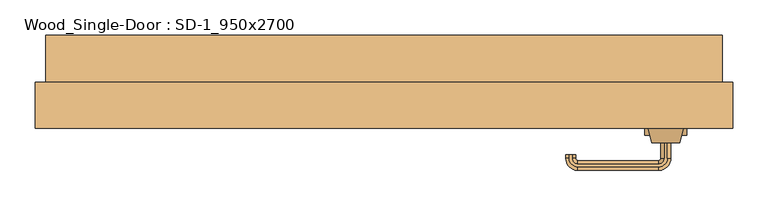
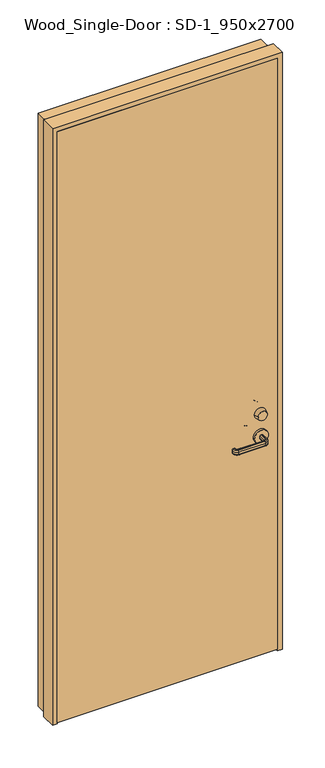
"""IFC4 building model written with IfcOpenShell, lengths in millimetres: door geometry, Wood_Single-Door : SD-1_950x2700."""

from ifc_helpers import new_model, si_unit, point, frame, frame_2d, origin, place, context, project, spatial, polyline, circle_curve, ellipse_curve, trimmed, segment, composite_curve, outline, extrude, source, transform, mapped, element, save
from ifc_brep_helpers import plane_surface, cylinder_surface, revolved_surface, advanced_brep


def wood_single_door_sd_1_950x2700_91983d8e(model_context):
    return source(origin(), model_context, "Body", "SolidModel", [
        advanced_brep(
        [(420.0, -86.0, 1106.3812925), (380.0, -86.0, 1106.3812925), (425.0, -66.0, 1106.3812925), (375.0, -66.0, 1106.3812925)],
        [
            (0, 1, circle_curve(frame((400.0, -86.0, 1106.3812925), z_axis=(0.0, -1.0, 0.0), x_axis=(1.0, 0.0, 0.0)), 20.0)),
            (1, 0, circle_curve(frame((400.0, -86.0, 1106.3812925), z_axis=(0.0, -1.0, 0.0), x_axis=(-1.0, 0.0, 0.0)), 20.0)),
            (2, 3, circle_curve(frame((400.0, -66.0, 1106.3812925), z_axis=(0.0, 1.0, 0.0), x_axis=(-1.0, 0.0, 0.0)), 25.0)),
            (3, 2, circle_curve(frame((400.0, -66.0, 1106.3812925), z_axis=(0.0, 1.0, 0.0), x_axis=(1.0, 0.0, 0.0)), 25.0)),
            (2, 0),
            (1, 3),
        ],
        [
            plane_surface(frame((400.0, -86.0, 1106.3812925), z_axis=(0.0, -1.0, 0.0), x_axis=(0.0, 0.0, 1.0))),
            plane_surface(frame((400.0, -66.0, 1106.3812925), z_axis=(0.0, 1.0, 0.0), x_axis=(0.0, 0.0, 1.0))),
            revolved_surface(polyline([(380.0, -86.0, 1106.3812925), (375.0, -66.0, 1106.3812925)]), (400.0, -166.0, 1106.3812925), (0.0, 1.0, 0.0)),
            revolved_surface(polyline([(420.0, -86.0, 1106.3812925), (425.0, -66.0, 1106.3812925)]), (400.0, -166.0, 1106.3812925), (0.0, 1.0, 0.0)),
        ],
        [
            (0, [[1, 2]]),
            (1, [[3, 4]]),
            (2, [[-3, 5, -2, 6]]),
            (3, [[-4, -6, -1, -5]]),
        ],
    ),
        advanced_brep(
        [(420.0, -1.0, 1106.3812925), (380.0, -1.0, 1106.3812925), (425.0, -21.0, 1106.3812925), (375.0, -21.0, 1106.3812925)],
        [
            (0, 1, circle_curve(frame((400.0, -1.0, 1106.3812925), z_axis=(0.0, 1.0, 0.0), x_axis=(1.0, 0.0, 0.0)), 20.0)),
            (1, 0, circle_curve(frame((400.0, -1.0, 1106.3812925), z_axis=(0.0, 1.0, 0.0), x_axis=(-1.0, 0.0, 0.0)), 20.0)),
            (2, 3, circle_curve(frame((400.0, -21.0, 1106.3812925), z_axis=(0.0, -1.0, 0.0), x_axis=(-1.0, 0.0, 0.0)), 25.0)),
            (3, 2, circle_curve(frame((400.0, -21.0, 1106.3812925), z_axis=(0.0, -1.0, 0.0), x_axis=(1.0, 0.0, 0.0)), 25.0)),
            (3, 1),
            (0, 2),
        ],
        [
            plane_surface(frame((400.0, -1.0, 1106.3812925), z_axis=(0.0, 1.0, 0.0), x_axis=(0.0, 0.0, -1.0))),
            plane_surface(frame((400.0, -21.0, 1106.3812925), z_axis=(0.0, -1.0, 0.0), x_axis=(0.0, 0.0, -1.0))),
            revolved_surface(polyline([(420.0, -1.0, 1106.3812925), (425.0, -21.0, 1106.3812925)]), (400.0, 79.0, 1106.3812925), (0.0, -1.0, 0.0)),
            revolved_surface(polyline([(380.0, -1.0, 1106.3812925), (375.0, -21.0, 1106.3812925)]), (400.0, 79.0, 1106.3812925), (0.0, -1.0, 0.0)),
        ],
        [
            (0, [[1, 2]]),
            (1, [[3, 4]]),
            (2, [[-4, 5, -1, 6]]),
            (3, [[-3, -6, -2, -5]]),
        ],
    ),
        advanced_brep(
        [(402.0, -76.0, 1015.0), (407.0, -76.0, 1010.0), (407.0, -76.0, 1000.0477623), (402.0, -76.0, 995.0477623), (398.0, -76.0, 995.0477623), (393.0, -76.0, 1000.0477623), (393.0, -76.0, 1010.0), (398.0, -76.0, 1015.0), (402.0, -108.5, 1015.0), (407.0, -108.5, 1010.0), (407.0, -108.5, 1000.0477623), (402.0, -108.5, 995.0477623), (390.0, -120.5, 995.0477623), (275.0, -120.5, 995.0477623), (263.0, -108.5, 995.0477623), (263.0, -103.5, 995.0477623), (267.0, -103.5, 995.0477623), (267.0, -108.5, 995.0477623), (275.0, -116.5, 995.0477623), (390.0, -116.5, 995.0477623), (398.0, -108.5, 995.0477623), (393.0, -108.5, 1000.0477623), (393.0, -108.5, 1010.0), (398.0, -108.5, 1015.0), (390.0, -116.5, 1015.0), (275.0, -116.5, 1015.0), (267.0, -108.5, 1015.0), (267.0, -103.5, 1015.0), (263.0, -103.5, 1015.0), (263.0, -108.5, 1015.0), (275.0, -120.5, 1015.0), (390.0, -120.5, 1015.0), (390.0, -125.5, 1010.0), (390.0, -125.5, 1000.0477623), (390.0, -111.5, 1000.0477623), (390.0, -111.5, 1010.0), (275.0, -125.5, 1010.0), (275.0, -125.5, 1000.0477623), (275.0, -111.5, 1000.0477623), (275.0, -111.5, 1010.0), (258.0, -108.5, 1010.0), (258.0, -108.5, 1000.0477623), (272.0, -108.5, 1000.0477623), (272.0, -108.5, 1010.0), (272.0, -103.5, 1010.0), (272.0, -103.5, 1000.0477623), (258.0, -103.5, 1000.0477623), (258.0, -103.5, 1010.0)],
        [
            (0, 1, circle_curve(frame((402.0, -76.0, 1010.0), z_axis=(0.0, 1.0, 0.0), x_axis=(1.0, 0.0, 0.0)), 5.0)),
            (1, 2),
            (2, 3, circle_curve(frame((402.0, -76.0, 1000.0477623), z_axis=(0.0, 1.0, 0.0), x_axis=(1.0, 0.0, 0.0)), 5.0)),
            (3, 4),
            (4, 5, circle_curve(frame((398.0, -76.0, 1000.0477623), z_axis=(0.0, 1.0, 0.0), x_axis=(1.0, 0.0, 0.0)), 5.0)),
            (5, 6),
            (6, 7, circle_curve(frame((398.0, -76.0, 1010.0), z_axis=(0.0, 1.0, 0.0), x_axis=(1.0, 0.0, 0.0)), 5.0)),
            (7, 0),
            (0, 8),
            (8, 9, circle_curve(frame((402.0, -108.5, 1010.0), z_axis=(0.0, 1.0, 0.0), x_axis=(1.0, 0.0, 0.0)), 5.0)),
            (9, 1),
            (9, 10),
            (10, 2),
            (10, 11, circle_curve(frame((402.0, -108.5, 1000.0477623), z_axis=(0.0, 1.0, 0.0), x_axis=(1.0, 0.0, 0.0)), 5.0)),
            (11, 3),
            (11, 12, circle_curve(frame((390.0, -108.5, 995.0477623), z_axis=(0.0, 0.0, -1.0), x_axis=(1.0, 0.0, 0.0)), 12.0)),
            (12, 13),
            (13, 14, circle_curve(frame((275.0, -108.5, 995.0477623), z_axis=(0.0, 0.0, -1.0), x_axis=(0.0, -1.0, 0.0)), 12.0)),
            (14, 15),
            (15, 16),
            (16, 17),
            (17, 18, circle_curve(frame((275.0, -108.5, 995.0477623), z_axis=(0.0, 0.0, 1.0), x_axis=(0.0, -1.0, 0.0)), 8.0)),
            (18, 19),
            (19, 20, circle_curve(frame((390.0, -108.5, 995.0477623), z_axis=(0.0, 0.0, 1.0), x_axis=(1.0, 0.0, 0.0)), 8.0)),
            (20, 4),
            (20, 21, circle_curve(frame((398.0, -108.5, 1000.0477623), z_axis=(0.0, 1.0, 0.0), x_axis=(1.0, 0.0, 0.0)), 5.0)),
            (21, 5),
            (21, 22),
            (22, 6),
            (22, 23, circle_curve(frame((398.0, -108.5, 1010.0), z_axis=(0.0, 1.0, 0.0), x_axis=(1.0, 0.0, 0.0)), 5.0)),
            (23, 7),
            (23, 24, circle_curve(frame((390.0, -108.5, 1015.0), z_axis=(0.0, 0.0, -1.0), x_axis=(1.0, 0.0, 0.0)), 8.0)),
            (24, 25),
            (25, 26, circle_curve(frame((275.0, -108.5, 1015.0), z_axis=(0.0, 0.0, -1.0), x_axis=(0.0, -1.0, 0.0)), 8.0)),
            (26, 27),
            (27, 28),
            (28, 29),
            (29, 30, circle_curve(frame((275.0, -108.5, 1015.0), z_axis=(0.0, 0.0, 1.0), x_axis=(0.0, -1.0, 0.0)), 12.0)),
            (30, 31),
            (31, 8, circle_curve(frame((390.0, -108.5, 1015.0), z_axis=(0.0, 0.0, 1.0), x_axis=(1.0, 0.0, 0.0)), 12.0)),
            (32, 9, circle_curve(frame((390.0, -108.5, 1010.0), z_axis=(0.0, 0.0, 1.0), x_axis=(1.0, 0.0, 0.0)), 17.0)),
            (31, 32, circle_curve(frame((390.0, -120.5, 1010.0), z_axis=(1.0, 0.0, 0.0), x_axis=(0.0, -1.0, 0.0)), 5.0)),
            (33, 10, circle_curve(frame((390.0, -108.5, 1000.0477623), z_axis=(0.0, 0.0, 1.0), x_axis=(1.0, 0.0, 0.0)), 17.0)),
            (32, 33),
            (33, 12, circle_curve(frame((390.0, -120.5, 1000.0477623), z_axis=(1.0, 0.0, 0.0), x_axis=(0.0, -1.0, 0.0)), 5.0)),
            (34, 21, circle_curve(frame((390.0, -108.5, 1000.0477623), z_axis=(0.0, 0.0, 1.0), x_axis=(1.0, 0.0, 0.0)), 3.0)),
            (19, 34, circle_curve(frame((390.0, -116.5, 1000.0477623), z_axis=(1.0, 0.0, 0.0), x_axis=(0.0, -1.0, 0.0)), 5.0)),
            (35, 22, circle_curve(frame((390.0, -108.5, 1010.0), z_axis=(0.0, 0.0, 1.0), x_axis=(1.0, 0.0, 0.0)), 3.0)),
            (34, 35),
            (35, 24, circle_curve(frame((390.0, -116.5, 1010.0), z_axis=(1.0, 0.0, 0.0), x_axis=(0.0, -1.0, 0.0)), 5.0)),
            (30, 36, circle_curve(frame((275.0, -120.5, 1010.0), z_axis=(1.0, 0.0, 0.0), x_axis=(0.0, -1.0, 0.0)), 5.0)),
            (36, 32),
            (36, 37),
            (37, 33),
            (37, 13, circle_curve(frame((275.0, -120.5, 1000.0477623), z_axis=(1.0, 0.0, 0.0), x_axis=(0.0, -1.0, 0.0)), 5.0)),
            (18, 38, circle_curve(frame((275.0, -116.5, 1000.0477623), z_axis=(1.0, 0.0, 0.0), x_axis=(0.0, -1.0, 0.0)), 5.0)),
            (38, 34),
            (38, 39),
            (39, 35),
            (39, 25, circle_curve(frame((275.0, -116.5, 1010.0), z_axis=(1.0, 0.0, 0.0), x_axis=(0.0, -1.0, 0.0)), 5.0)),
            (40, 36, circle_curve(frame((275.0, -108.5, 1010.0), z_axis=(0.0, 0.0, 1.0), x_axis=(0.0, -1.0, 0.0)), 17.0)),
            (29, 40, circle_curve(frame((263.0, -108.5, 1010.0), z_axis=(0.0, -1.0, 0.0), x_axis=(-1.0, 0.0, 0.0)), 5.0)),
            (41, 37, circle_curve(frame((275.0, -108.5, 1000.0477623), z_axis=(0.0, 0.0, 1.0), x_axis=(0.0, -1.0, 0.0)), 17.0)),
            (40, 41),
            (41, 14, circle_curve(frame((263.0, -108.5, 1000.0477623), z_axis=(0.0, -1.0, 0.0), x_axis=(-1.0, 0.0, 0.0)), 5.0)),
            (42, 38, circle_curve(frame((275.0, -108.5, 1000.0477623), z_axis=(0.0, 0.0, 1.0), x_axis=(0.0, -1.0, 0.0)), 3.0)),
            (17, 42, circle_curve(frame((267.0, -108.5, 1000.0477623), z_axis=(0.0, -1.0, 0.0), x_axis=(-1.0, 0.0, 0.0)), 5.0)),
            (43, 39, circle_curve(frame((275.0, -108.5, 1010.0), z_axis=(0.0, 0.0, 1.0), x_axis=(0.0, -1.0, 0.0)), 3.0)),
            (42, 43),
            (43, 26, circle_curve(frame((267.0, -108.5, 1010.0), z_axis=(0.0, -1.0, 0.0), x_axis=(-1.0, 0.0, 0.0)), 5.0)),
            (27, 44, circle_curve(frame((267.0, -103.5, 1010.0), z_axis=(0.0, 1.0, 0.0), x_axis=(-1.0, 0.0, 0.0)), 5.0)),
            (44, 45),
            (45, 16, circle_curve(frame((267.0, -103.5, 1000.0477623), z_axis=(0.0, 1.0, 0.0), x_axis=(-1.0, 0.0, 0.0)), 5.0)),
            (15, 46, circle_curve(frame((263.0, -103.5, 1000.0477623), z_axis=(0.0, 1.0, 0.0), x_axis=(-1.0, 0.0, 0.0)), 5.0)),
            (46, 47),
            (47, 28, circle_curve(frame((263.0, -103.5, 1010.0), z_axis=(0.0, 1.0, 0.0), x_axis=(-1.0, 0.0, 0.0)), 5.0)),
            (47, 40),
            (46, 41),
            (45, 42),
            (44, 43),
        ],
        [
            plane_surface(frame((410.198039, -76.0, 1005.0), z_axis=(0.0, 1.0, 0.0), x_axis=(0.0, 0.0, 1.0))),
            cylinder_surface(frame((402.0, -76.0, 1010.0), z_axis=(0.0, 1.0, 0.0), x_axis=(1.0, 0.0, 0.0)), 5.0),
            plane_surface(frame((407.0, -76.0, 1010.0), z_axis=(1.0, 0.0, 0.0), x_axis=(0.0, -1.0, 0.0))),
            cylinder_surface(frame((402.0, -76.0, 1000.0477623), z_axis=(0.0, 1.0, 0.0), x_axis=(1.0, 0.0, 0.0)), 5.0),
            plane_surface(frame((402.0, -76.0, 995.0477623), z_axis=(0.0, 0.0, -1.0), x_axis=(0.0, -1.0, 0.0))),
            cylinder_surface(frame((398.0, -76.0, 1000.0477623), z_axis=(0.0, 1.0, 0.0), x_axis=(1.0, 0.0, 0.0)), 5.0),
            plane_surface(frame((393.0, -76.0, 1000.0477623), z_axis=(-1.0, 0.0, 0.0), x_axis=(0.0, -1.0, 0.0))),
            cylinder_surface(frame((398.0, -76.0, 1010.0), z_axis=(0.0, 1.0, 0.0), x_axis=(1.0, 0.0, 0.0)), 5.0),
            plane_surface(frame((398.0, -76.0, 1015.0), z_axis=(0.0, 0.0, 1.0), x_axis=(0.0, -1.0, 0.0))),
            revolved_surface(trimmed(ellipse_curve(frame((402.0, -108.5, 1010.0), z_axis=(0.0, 1.0, 0.0), x_axis=(1.0, 0.0, 0.0)), 5.0, 5.0), [point((402.0, -108.5, 1015.0))], [point((407.0, -108.5, 1010.0))], True, "CARTESIAN"), (390.0, -108.5, 1005.0), (0.0, 0.0, -1.0)),
            cylinder_surface(frame((390.0, -108.5, 1005.0), z_axis=(0.0, 0.0, -1.0), x_axis=(1.0, 0.0, 0.0)), 17.0),
            revolved_surface(trimmed(ellipse_curve(frame((402.0, -108.5, 1000.0477623), z_axis=(0.0, 1.0, 0.0), x_axis=(1.0, 0.0, 0.0)), 5.0, 5.0), [point((407.0, -108.5, 1000.0477623))], [point((402.0, -108.5, 995.0477623))], True, "CARTESIAN"), (390.0, -108.5, 1005.0), (0.0, 0.0, -1.0)),
            revolved_surface(trimmed(ellipse_curve(frame((398.0, -108.5, 1000.0477623), z_axis=(0.0, 1.0, 0.0), x_axis=(1.0, 0.0, 0.0)), 5.0, 5.0), [point((398.0, -108.5, 995.0477623))], [point((393.0, -108.5, 1000.0477623))], True, "CARTESIAN"), (390.0, -108.5, 1005.0), (0.0, 0.0, -1.0)),
            revolved_surface(polyline([(393.0, -108.5, 1000.0477623), (393.0, -108.5, 1010.0)]), (390.0, -108.5, 1005.0), (0.0, 0.0, -1.0)),
            revolved_surface(trimmed(ellipse_curve(frame((398.0, -108.5, 1010.0), z_axis=(0.0, 1.0, 0.0), x_axis=(1.0, 0.0, 0.0)), 5.0, 5.0), [point((393.0, -108.5, 1010.0))], [point((398.0, -108.5, 1015.0))], True, "CARTESIAN"), (390.0, -108.5, 1005.0), (0.0, 0.0, -1.0)),
            cylinder_surface(frame((390.0, -120.5, 1010.0), z_axis=(1.0, 0.0, 0.0), x_axis=(0.0, -1.0, 0.0)), 5.0),
            plane_surface(frame((390.0, -125.5, 1010.0), z_axis=(0.0, -1.0, 0.0), x_axis=(-1.0, 0.0, 0.0))),
            cylinder_surface(frame((390.0, -120.5, 1000.0477623), z_axis=(1.0, 0.0, 0.0), x_axis=(0.0, -1.0, 0.0)), 5.0),
            cylinder_surface(frame((390.0, -116.5, 1000.0477623), z_axis=(1.0, 0.0, 0.0), x_axis=(0.0, -1.0, 0.0)), 5.0),
            plane_surface(frame((390.0, -111.5, 1000.0477623), z_axis=(0.0, 1.0, 0.0), x_axis=(-1.0, 0.0, 0.0))),
            cylinder_surface(frame((390.0, -116.5, 1010.0), z_axis=(1.0, 0.0, 0.0), x_axis=(0.0, -1.0, 0.0)), 5.0),
            revolved_surface(trimmed(ellipse_curve(frame((275.0, -120.5, 1010.0), z_axis=(1.0, 0.0, 0.0), x_axis=(0.0, -1.0, 0.0)), 5.0, 5.0), [point((275.0, -120.5, 1015.0))], [point((275.0, -125.5, 1010.0))], True, "CARTESIAN"), (275.0, -108.5, 1005.0), (0.0, 0.0, -1.0)),
            cylinder_surface(frame((275.0, -108.5, 1005.0), z_axis=(0.0, 0.0, -1.0), x_axis=(0.0, -1.0, 0.0)), 17.0),
            revolved_surface(trimmed(ellipse_curve(frame((275.0, -120.5, 1000.0477623), z_axis=(1.0, 0.0, 0.0), x_axis=(0.0, -1.0, 0.0)), 5.0, 5.0), [point((275.0, -125.5, 1000.0477623))], [point((275.0, -120.5, 995.0477623))], True, "CARTESIAN"), (275.0, -108.5, 1005.0), (0.0, 0.0, -1.0)),
            revolved_surface(trimmed(ellipse_curve(frame((275.0, -116.5, 1000.0477623), z_axis=(1.0, 0.0, 0.0), x_axis=(0.0, -1.0, 0.0)), 5.0, 5.0), [point((275.0, -116.5, 995.0477623))], [point((275.0, -111.5, 1000.0477623))], True, "CARTESIAN"), (275.0, -108.5, 1005.0), (0.0, 0.0, -1.0)),
            revolved_surface(polyline([(275.0, -111.5, 1000.0477623), (275.0, -111.5, 1010.0)]), (275.0, -108.5, 1005.0), (0.0, 0.0, -1.0)),
            revolved_surface(trimmed(ellipse_curve(frame((275.0, -116.5, 1010.0), z_axis=(1.0, 0.0, 0.0), x_axis=(0.0, -1.0, 0.0)), 5.0, 5.0), [point((275.0, -111.5, 1010.0))], [point((275.0, -116.5, 1015.0))], True, "CARTESIAN"), (275.0, -108.5, 1005.0), (0.0, 0.0, -1.0)),
            plane_surface(frame((275.198039, -103.5, 1005.0), z_axis=(0.0, 1.0, 0.0), x_axis=(0.0, 0.0, -1.0))),
            cylinder_surface(frame((263.0, -108.5, 1010.0), z_axis=(0.0, -1.0, 0.0), x_axis=(-1.0, 0.0, 0.0)), 5.0),
            plane_surface(frame((258.0, -108.5, 1010.0), z_axis=(-1.0, 0.0, 0.0), x_axis=(0.0, 1.0, 0.0))),
            cylinder_surface(frame((263.0, -108.5, 1000.0477623), z_axis=(0.0, -1.0, 0.0), x_axis=(-1.0, 0.0, 0.0)), 5.0),
            cylinder_surface(frame((267.0, -108.5, 1000.0477623), z_axis=(0.0, -1.0, 0.0), x_axis=(-1.0, 0.0, 0.0)), 5.0),
            plane_surface(frame((272.0, -108.5, 1000.0477623), z_axis=(1.0, 0.0, 0.0), x_axis=(0.0, 1.0, 0.0))),
            cylinder_surface(frame((267.0, -108.5, 1010.0), z_axis=(0.0, -1.0, 0.0), x_axis=(-1.0, 0.0, 0.0)), 5.0),
        ],
        [
            (0, [[1, 2, 3, 4, 5, 6, 7, 8]]),
            (1, [[-1, 9, 10, 11]]),
            (2, [[-2, -11, 12, 13]]),
            (3, [[-3, -13, 14, 15]]),
            (4, [[-4, -15, 16, 17, 18, 19, 20, 21, 22, 23, 24, 25]]),
            (5, [[-5, -25, 26, 27]]),
            (6, [[-6, -27, 28, 29]]),
            (7, [[-7, -29, 30, 31]]),
            (8, [[-8, -31, 32, 33, 34, 35, 36, 37, 38, 39, 40, -9]]),
            (9, [[41, -10, -40, 42]]),
            (10, [[43, -12, -41, 44]]),
            (11, [[-16, -14, -43, 45]]),
            (12, [[46, -26, -24, 47]]),
            (13, [[48, -28, -46, 49]]),
            (14, [[-32, -30, -48, 50]]),
            (15, [[-42, -39, 51, 52]]),
            (16, [[-44, -52, 53, 54]]),
            (17, [[-45, -54, 55, -17]]),
            (18, [[-47, -23, 56, 57]]),
            (19, [[-49, -57, 58, 59]]),
            (20, [[-50, -59, 60, -33]]),
            (21, [[61, -51, -38, 62]]),
            (22, [[63, -53, -61, 64]]),
            (23, [[-18, -55, -63, 65]]),
            (24, [[66, -56, -22, 67]]),
            (25, [[68, -58, -66, 69]]),
            (26, [[-34, -60, -68, 70]]),
            (27, [[-36, 71, 72, 73, -20, 74, 75, 76]]),
            (28, [[-62, -37, -76, 77]]),
            (29, [[-64, -77, -75, 78]]),
            (30, [[-65, -78, -74, -19]]),
            (31, [[-67, -21, -73, 79]]),
            (32, [[-69, -79, -72, 80]]),
            (33, [[-70, -80, -71, -35]]),
        ],
    ),
        advanced_brep(
        [(407.0, -11.0, 1000.0), (402.0, -11.0, 995.0), (402.0, 21.5, 995.0), (407.0, 21.5, 1000.0), (398.0, -11.0, 995.0), (407.0, -11.0, 1010.0), (402.0, -11.0, 1015.0), (398.0, -11.0, 1015.0), (393.0, -11.0, 1010.0), (393.0, -11.0, 1000.0), (398.0, 21.5, 995.0), (390.0, 29.5, 995.0), (275.0, 29.5, 995.0), (267.0, 21.5, 995.0), (267.0, 16.5, 995.0), (263.0, 16.5, 995.0), (263.0, 21.5, 995.0), (275.0, 33.5, 995.0), (390.0, 33.5, 995.0), (407.0, 21.5, 1010.0), (402.0, 21.5, 1015.0), (390.0, 33.5, 1015.0), (275.0, 33.5, 1015.0), (263.0, 21.5, 1015.0), (263.0, 16.5, 1015.0), (267.0, 16.5, 1015.0), (267.0, 21.5, 1015.0), (275.0, 29.5, 1015.0), (390.0, 29.5, 1015.0), (398.0, 21.5, 1015.0), (393.0, 21.5, 1010.0), (393.0, 21.5, 1000.0), (390.0, 38.5, 1000.0), (390.0, 38.5, 1010.0), (390.0, 24.5, 1010.0), (390.0, 24.5, 1000.0), (275.0, 38.5, 1000.0), (275.0, 38.5, 1010.0), (275.0, 24.5, 1010.0), (275.0, 24.5, 1000.0), (258.0, 21.5, 1000.0), (258.0, 21.5, 1010.0), (272.0, 21.5, 1010.0), (272.0, 21.5, 1000.0), (272.0, 16.5, 1000.0), (272.0, 16.5, 1010.0), (258.0, 16.5, 1010.0), (258.0, 16.5, 1000.0)],
        [
            (0, 1, circle_curve(frame((402.0, -11.0, 1000.0), z_axis=(0.0, 1.0, 0.0), x_axis=(-1.0, 0.0, 0.0)), 5.0)),
            (1, 2),
            (2, 3, circle_curve(frame((402.0, 21.5, 1000.0), z_axis=(0.0, -1.0, 0.0), x_axis=(-1.0, 0.0, 0.0)), 5.0)),
            (3, 0),
            (4, 1),
            (0, 5),
            (5, 6, circle_curve(frame((402.0, -11.0, 1010.0), z_axis=(0.0, -1.0, 0.0), x_axis=(-1.0, 0.0, 0.0)), 5.0)),
            (6, 7),
            (7, 8, circle_curve(frame((398.0, -11.0, 1010.0), z_axis=(0.0, -1.0, 0.0), x_axis=(-1.0, 0.0, 0.0)), 5.0)),
            (8, 9),
            (9, 4, circle_curve(frame((398.0, -11.0, 1000.0), z_axis=(0.0, -1.0, 0.0), x_axis=(-1.0, 0.0, 0.0)), 5.0)),
            (4, 10),
            (10, 11, circle_curve(frame((390.0, 21.5, 995.0), z_axis=(0.0, 0.0, 1.0), x_axis=(1.0, 0.0, 0.0)), 8.0)),
            (11, 12),
            (12, 13, circle_curve(frame((275.0, 21.5, 995.0), z_axis=(0.0, 0.0, 1.0), x_axis=(0.0, 1.0, 0.0)), 8.0)),
            (13, 14),
            (14, 15),
            (15, 16),
            (16, 17, circle_curve(frame((275.0, 21.5, 995.0), z_axis=(0.0, 0.0, -1.0), x_axis=(0.0, 1.0, 0.0)), 12.0)),
            (17, 18),
            (18, 2, circle_curve(frame((390.0, 21.5, 995.0), z_axis=(0.0, 0.0, -1.0), x_axis=(1.0, 0.0, 0.0)), 12.0)),
            (3, 19),
            (19, 5),
            (19, 20, circle_curve(frame((402.0, 21.5, 1010.0), z_axis=(0.0, -1.0, 0.0), x_axis=(-1.0, 0.0, 0.0)), 5.0)),
            (20, 6),
            (20, 21, circle_curve(frame((390.0, 21.5, 1015.0), z_axis=(0.0, 0.0, 1.0), x_axis=(1.0, 0.0, 0.0)), 12.0)),
            (21, 22),
            (22, 23, circle_curve(frame((275.0, 21.5, 1015.0), z_axis=(0.0, 0.0, 1.0), x_axis=(0.0, 1.0, 0.0)), 12.0)),
            (23, 24),
            (24, 25),
            (25, 26),
            (26, 27, circle_curve(frame((275.0, 21.5, 1015.0), z_axis=(0.0, 0.0, -1.0), x_axis=(0.0, 1.0, 0.0)), 8.0)),
            (27, 28),
            (28, 29, circle_curve(frame((390.0, 21.5, 1015.0), z_axis=(0.0, 0.0, -1.0), x_axis=(1.0, 0.0, 0.0)), 8.0)),
            (29, 7),
            (29, 30, circle_curve(frame((398.0, 21.5, 1010.0), z_axis=(0.0, -1.0, 0.0), x_axis=(-1.0, 0.0, 0.0)), 5.0)),
            (30, 8),
            (30, 31),
            (31, 9),
            (31, 10, circle_curve(frame((398.0, 21.5, 1000.0), z_axis=(0.0, -1.0, 0.0), x_axis=(-1.0, 0.0, 0.0)), 5.0)),
            (32, 3, circle_curve(frame((390.0, 21.5, 1000.0), z_axis=(0.0, 0.0, -1.0), x_axis=(1.0, 0.0, 0.0)), 17.0)),
            (18, 32, circle_curve(frame((390.0, 33.5, 1000.0), z_axis=(1.0, 0.0, 0.0), x_axis=(0.0, -1.0, 0.0)), 5.0)),
            (33, 19, circle_curve(frame((390.0, 21.5, 1010.0), z_axis=(0.0, 0.0, -1.0), x_axis=(1.0, 0.0, 0.0)), 17.0)),
            (32, 33),
            (33, 21, circle_curve(frame((390.0, 33.5, 1010.0), z_axis=(1.0, 0.0, 0.0), x_axis=(0.0, -1.0, 0.0)), 5.0)),
            (34, 30, circle_curve(frame((390.0, 21.5, 1010.0), z_axis=(0.0, 0.0, -1.0), x_axis=(1.0, 0.0, 0.0)), 3.0)),
            (28, 34, circle_curve(frame((390.0, 29.5, 1010.0), z_axis=(1.0, 0.0, 0.0), x_axis=(0.0, -1.0, 0.0)), 5.0)),
            (35, 31, circle_curve(frame((390.0, 21.5, 1000.0), z_axis=(0.0, 0.0, -1.0), x_axis=(1.0, 0.0, 0.0)), 3.0)),
            (34, 35),
            (35, 11, circle_curve(frame((390.0, 29.5, 1000.0), z_axis=(1.0, 0.0, 0.0), x_axis=(0.0, -1.0, 0.0)), 5.0)),
            (17, 36, circle_curve(frame((275.0, 33.5, 1000.0), z_axis=(1.0, 0.0, 0.0), x_axis=(0.0, -1.0, 0.0)), 5.0)),
            (36, 32),
            (36, 37),
            (37, 33),
            (37, 22, circle_curve(frame((275.0, 33.5, 1010.0), z_axis=(1.0, 0.0, 0.0), x_axis=(0.0, -1.0, 0.0)), 5.0)),
            (27, 38, circle_curve(frame((275.0, 29.5, 1010.0), z_axis=(1.0, 0.0, 0.0), x_axis=(0.0, -1.0, 0.0)), 5.0)),
            (38, 34),
            (38, 39),
            (39, 35),
            (39, 12, circle_curve(frame((275.0, 29.5, 1000.0), z_axis=(1.0, 0.0, 0.0), x_axis=(0.0, -1.0, 0.0)), 5.0)),
            (40, 36, circle_curve(frame((275.0, 21.5, 1000.0), z_axis=(0.0, 0.0, -1.0), x_axis=(0.0, 1.0, 0.0)), 17.0)),
            (16, 40, circle_curve(frame((263.0, 21.5, 1000.0), z_axis=(0.0, 1.0, 0.0), x_axis=(1.0, 0.0, 0.0)), 5.0)),
            (41, 37, circle_curve(frame((275.0, 21.5, 1010.0), z_axis=(0.0, 0.0, -1.0), x_axis=(0.0, 1.0, 0.0)), 17.0)),
            (40, 41),
            (41, 23, circle_curve(frame((263.0, 21.5, 1010.0), z_axis=(0.0, 1.0, 0.0), x_axis=(1.0, 0.0, 0.0)), 5.0)),
            (42, 38, circle_curve(frame((275.0, 21.5, 1010.0), z_axis=(0.0, 0.0, -1.0), x_axis=(0.0, 1.0, 0.0)), 3.0)),
            (26, 42, circle_curve(frame((267.0, 21.5, 1010.0), z_axis=(0.0, 1.0, 0.0), x_axis=(1.0, 0.0, 0.0)), 5.0)),
            (43, 39, circle_curve(frame((275.0, 21.5, 1000.0), z_axis=(0.0, 0.0, -1.0), x_axis=(0.0, 1.0, 0.0)), 3.0)),
            (42, 43),
            (43, 13, circle_curve(frame((267.0, 21.5, 1000.0), z_axis=(0.0, 1.0, 0.0), x_axis=(1.0, 0.0, 0.0)), 5.0)),
            (14, 44, circle_curve(frame((267.0, 16.5, 1000.0), z_axis=(0.0, -1.0, 0.0), x_axis=(1.0, 0.0, 0.0)), 5.0)),
            (44, 45),
            (45, 25, circle_curve(frame((267.0, 16.5, 1010.0), z_axis=(0.0, -1.0, 0.0), x_axis=(1.0, 0.0, 0.0)), 5.0)),
            (24, 46, circle_curve(frame((263.0, 16.5, 1010.0), z_axis=(0.0, -1.0, 0.0), x_axis=(1.0, 0.0, 0.0)), 5.0)),
            (46, 47),
            (47, 15, circle_curve(frame((263.0, 16.5, 1000.0), z_axis=(0.0, -1.0, 0.0), x_axis=(1.0, 0.0, 0.0)), 5.0)),
            (47, 40),
            (46, 41),
            (45, 42),
            (44, 43),
        ],
        [
            cylinder_surface(frame((402.0, -11.0, 1000.0), z_axis=(0.0, -1.0, 0.0), x_axis=(-1.0, 0.0, 0.0)), 5.0),
            plane_surface(frame((410.198039, -11.0, 1005.0), z_axis=(0.0, -1.0, 0.0), x_axis=(0.0, 0.0, -1.0))),
            plane_surface(frame((398.0, -11.0, 995.0), z_axis=(0.0, 0.0, -1.0), x_axis=(0.0, 1.0, 0.0))),
            plane_surface(frame((407.0, -11.0, 1000.0), z_axis=(1.0, 0.0, 0.0), x_axis=(0.0, 1.0, 0.0))),
            cylinder_surface(frame((402.0, -11.0, 1010.0), z_axis=(0.0, -1.0, 0.0), x_axis=(-1.0, 0.0, 0.0)), 5.0),
            plane_surface(frame((402.0, -11.0, 1015.0), z_axis=(0.0, 0.0, 1.0), x_axis=(0.0, 1.0, 0.0))),
            cylinder_surface(frame((398.0, -11.0, 1010.0), z_axis=(0.0, -1.0, 0.0), x_axis=(-1.0, 0.0, 0.0)), 5.0),
            plane_surface(frame((393.0, -11.0, 1010.0), z_axis=(-1.0, 0.0, 0.0), x_axis=(0.0, 1.0, 0.0))),
            cylinder_surface(frame((398.0, -11.0, 1000.0), z_axis=(0.0, -1.0, 0.0), x_axis=(-1.0, 0.0, 0.0)), 5.0),
            revolved_surface(trimmed(ellipse_curve(frame((402.0, 21.5, 1000.0), z_axis=(0.0, -1.0, 0.0), x_axis=(-1.0, 0.0, 0.0)), 5.0, 5.0), [point((402.0, 21.5, 995.0))], [point((407.0, 21.5, 1000.0))], True, "CARTESIAN"), (390.0, 21.5, 1005.0), (0.0, 0.0, 1.0)),
            cylinder_surface(frame((390.0, 21.5, 1005.0), z_axis=(0.0, 0.0, 1.0), x_axis=(1.0, 0.0, 0.0)), 17.0),
            revolved_surface(trimmed(ellipse_curve(frame((402.0, 21.5, 1010.0), z_axis=(0.0, -1.0, 0.0), x_axis=(-1.0, 0.0, 0.0)), 5.0, 5.0), [point((407.0, 21.5, 1010.0))], [point((402.0, 21.5, 1015.0))], True, "CARTESIAN"), (390.0, 21.5, 1005.0), (0.0, 0.0, 1.0)),
            revolved_surface(trimmed(ellipse_curve(frame((398.0, 21.5, 1010.0), z_axis=(0.0, -1.0, 0.0), x_axis=(-1.0, 0.0, 0.0)), 5.0, 5.0), [point((398.0, 21.5, 1015.0))], [point((393.0, 21.5, 1010.0))], True, "CARTESIAN"), (390.0, 21.5, 1005.0), (0.0, 0.0, 1.0)),
            revolved_surface(polyline([(393.0, 21.5, 1010.0), (393.0, 21.5, 1000.0)]), (390.0, 21.5, 1005.0), (0.0, 0.0, 1.0)),
            revolved_surface(trimmed(ellipse_curve(frame((398.0, 21.5, 1000.0), z_axis=(0.0, -1.0, 0.0), x_axis=(-1.0, 0.0, 0.0)), 5.0, 5.0), [point((393.0, 21.5, 1000.0))], [point((398.0, 21.5, 995.0))], True, "CARTESIAN"), (390.0, 21.5, 1005.0), (0.0, 0.0, 1.0)),
            cylinder_surface(frame((390.0, 33.5, 1000.0), z_axis=(1.0, 0.0, 0.0), x_axis=(0.0, -1.0, 0.0)), 5.0),
            plane_surface(frame((390.0, 38.5, 1000.0), z_axis=(0.0, 1.0, 0.0), x_axis=(-1.0, 0.0, 0.0))),
            cylinder_surface(frame((390.0, 33.5, 1010.0), z_axis=(1.0, 0.0, 0.0), x_axis=(0.0, -1.0, 0.0)), 5.0),
            cylinder_surface(frame((390.0, 29.5, 1010.0), z_axis=(1.0, 0.0, 0.0), x_axis=(0.0, -1.0, 0.0)), 5.0),
            plane_surface(frame((390.0, 24.5, 1010.0), z_axis=(0.0, -1.0, 0.0), x_axis=(-1.0, 0.0, 0.0))),
            cylinder_surface(frame((390.0, 29.5, 1000.0), z_axis=(1.0, 0.0, 0.0), x_axis=(0.0, -1.0, 0.0)), 5.0),
            revolved_surface(trimmed(ellipse_curve(frame((275.0, 33.5, 1000.0), z_axis=(1.0, 0.0, 0.0), x_axis=(0.0, -1.0, 0.0)), 5.0, 5.0), [point((275.0, 33.5, 995.0))], [point((275.0, 38.5, 1000.0))], True, "CARTESIAN"), (275.0, 21.5, 1005.0), (0.0, 0.0, 1.0)),
            cylinder_surface(frame((275.0, 21.5, 1005.0), z_axis=(0.0, 0.0, 1.0), x_axis=(0.0, 1.0, 0.0)), 17.0),
            revolved_surface(trimmed(ellipse_curve(frame((275.0, 33.5, 1010.0), z_axis=(1.0, 0.0, 0.0), x_axis=(0.0, -1.0, 0.0)), 5.0, 5.0), [point((275.0, 38.5, 1010.0))], [point((275.0, 33.5, 1015.0))], True, "CARTESIAN"), (275.0, 21.5, 1005.0), (0.0, 0.0, 1.0)),
            revolved_surface(trimmed(ellipse_curve(frame((275.0, 29.5, 1010.0), z_axis=(1.0, 0.0, 0.0), x_axis=(0.0, -1.0, 0.0)), 5.0, 5.0), [point((275.0, 29.5, 1015.0))], [point((275.0, 24.5, 1010.0))], True, "CARTESIAN"), (275.0, 21.5, 1005.0), (0.0, 0.0, 1.0)),
            revolved_surface(polyline([(275.0, 24.5, 1010.0), (275.0, 24.5, 1000.0)]), (275.0, 21.5, 1005.0), (0.0, 0.0, 1.0)),
            revolved_surface(trimmed(ellipse_curve(frame((275.0, 29.5, 1000.0), z_axis=(1.0, 0.0, 0.0), x_axis=(0.0, -1.0, 0.0)), 5.0, 5.0), [point((275.0, 24.5, 1000.0))], [point((275.0, 29.5, 995.0))], True, "CARTESIAN"), (275.0, 21.5, 1005.0), (0.0, 0.0, 1.0)),
            plane_surface(frame((275.198039, 16.5, 1005.0), z_axis=(0.0, -1.0, 0.0), x_axis=(0.0, 0.0, 1.0))),
            cylinder_surface(frame((263.0, 21.5, 1000.0), z_axis=(0.0, 1.0, 0.0), x_axis=(1.0, 0.0, 0.0)), 5.0),
            plane_surface(frame((258.0, 21.5, 1000.0), z_axis=(-1.0, 0.0, 0.0), x_axis=(0.0, -1.0, 0.0))),
            cylinder_surface(frame((263.0, 21.5, 1010.0), z_axis=(0.0, 1.0, 0.0), x_axis=(1.0, 0.0, 0.0)), 5.0),
            cylinder_surface(frame((267.0, 21.5, 1010.0), z_axis=(0.0, 1.0, 0.0), x_axis=(1.0, 0.0, 0.0)), 5.0),
            plane_surface(frame((272.0, 21.5, 1010.0), z_axis=(1.0, 0.0, 0.0), x_axis=(0.0, -1.0, 0.0))),
            cylinder_surface(frame((267.0, 21.5, 1000.0), z_axis=(0.0, 1.0, 0.0), x_axis=(1.0, 0.0, 0.0)), 5.0),
        ],
        [
            (0, [[1, 2, 3, 4]]),
            (1, [[5, -1, 6, 7, 8, 9, 10, 11]]),
            (2, [[-5, 12, 13, 14, 15, 16, 17, 18, 19, 20, 21, -2]]),
            (3, [[-6, -4, 22, 23]]),
            (4, [[-7, -23, 24, 25]]),
            (5, [[-8, -25, 26, 27, 28, 29, 30, 31, 32, 33, 34, 35]]),
            (6, [[-9, -35, 36, 37]]),
            (7, [[-10, -37, 38, 39]]),
            (8, [[-11, -39, 40, -12]]),
            (9, [[41, -3, -21, 42]]),
            (10, [[43, -22, -41, 44]]),
            (11, [[-26, -24, -43, 45]]),
            (12, [[46, -36, -34, 47]]),
            (13, [[48, -38, -46, 49]]),
            (14, [[-13, -40, -48, 50]]),
            (15, [[-42, -20, 51, 52]]),
            (16, [[-44, -52, 53, 54]]),
            (17, [[-45, -54, 55, -27]]),
            (18, [[-47, -33, 56, 57]]),
            (19, [[-49, -57, 58, 59]]),
            (20, [[-50, -59, 60, -14]]),
            (21, [[61, -51, -19, 62]]),
            (22, [[63, -53, -61, 64]]),
            (23, [[-28, -55, -63, 65]]),
            (24, [[66, -56, -32, 67]]),
            (25, [[68, -58, -66, 69]]),
            (26, [[-15, -60, -68, 70]]),
            (27, [[71, 72, 73, -30, 74, 75, 76, -17]]),
            (28, [[-62, -18, -76, 77]]),
            (29, [[-64, -77, -75, 78]]),
            (30, [[-65, -78, -74, -29]]),
            (31, [[-67, -31, -73, 79]]),
            (32, [[-69, -79, -72, 80]]),
            (33, [[-70, -80, -71, -16]]),
        ],
    ),
        extrude(outline(composite_curve([segment(trimmed(circle_curve(frame_2d((1005.0, 400.0)), 30.0), [point((1005.0, 430.0))], [point((1005.0, 370.0))], False, "CARTESIAN"), True, "CONTINUOUS"), segment(trimmed(circle_curve(frame_2d((1005.0, 400.0)), 30.0), [point((1005.0, 370.0))], [point((1005.0, 430.0))], False, "CARTESIAN"), True, "CONTINUOUS")], self_intersect=False)), frame((0.0, -76.0, 0.0), z_axis=(0.0, 1.0, 0.0), x_axis=(0.0, 0.0, 1.0)), (0.0, 0.0, 1.0), 10.0),
        extrude(outline(composite_curve([segment(trimmed(circle_curve(frame_2d((1005.0, 400.0)), 30.0), [point((1005.0, 430.0))], [point((1005.0, 370.0))], False, "CARTESIAN"), True, "CONTINUOUS"), segment(trimmed(circle_curve(frame_2d((1005.0, 400.0)), 30.0), [point((1005.0, 370.0))], [point((1005.0, 430.0))], False, "CARTESIAN"), True, "CONTINUOUS")], self_intersect=False)), frame((0.0, -21.0, 0.0), z_axis=(0.0, 1.0, 0.0), x_axis=(0.0, 0.0, 1.0)), (0.0, 0.0, 1.0), 10.0),
        extrude(outline(polyline([(-475.0, -21.0), (475.0, -21.0), (475.0, -66.0), (-475.0, -66.0), (-475.0, -21.0)])), frame((0.0, 0.0, 5.0), z_axis=(0.0, 0.0, 1.0), x_axis=(1.0, 0.0, 0.0)), (0.0, 0.0, 1.0), 2690.0),
        extrude(outline(polyline([(0.0, -460.0), (2680.0, -460.0), (2680.0, 460.0), (0.0, 460.0), (0.0, 480.0), (2700.0, 480.0), (2700.0, -480.0), (0.0, -480.0), (0.0, -460.0)])), frame((0.0, -21.0, 0.0), z_axis=(0.0, 1.0, 0.0), x_axis=(0.0, 0.0, 1.0)), (0.0, 0.0, 1.0), 87.0),
        extrude(outline(polyline([(0.0, -475.0), (2695.0, -475.0), (2695.0, 475.0), (0.0, 475.0), (0.0, 495.0), (2715.0, 495.0), (2715.0, -495.0), (0.0, -495.0), (0.0, -475.0)])), frame((0.0, -66.0, 0.0), z_axis=(0.0, 1.0, 0.0), x_axis=(0.0, 0.0, 1.0)), (0.0, 0.0, 1.0), 65.0),
    ])


if __name__ == "__main__":
    model = new_model("IFC4")
    model_context = context("Model", 3, world=origin())
    ifc_project = project(units=[si_unit("LENGTHUNIT", "METRE", prefix="MILLI")], contexts=[model_context])
    site = spatial("IfcSite", under=ifc_project)
    building = spatial("IfcBuilding", under=site)
    placement = place(None, origin())
    wood_single_door_sd_1_950x2700_shape = wood_single_door_sd_1_950x2700_91983d8e(model_context)
    element("IfcDoor", 1, ObjectType="Wood_Single-Door : SD-1_950x2700", at=placement, inside=building, context=model_context, shape_type="MappedRepresentation", body=[
        mapped(wood_single_door_sd_1_950x2700_shape, transform((0.0, 0.0, 0.0), x_axis=(1.0, 0.0, 0.0), y_axis=(0.0, 1.0, 0.0), z_axis=(0.0, 0.0, 1.0))),
    ])
    save(model, "model.ifc")
